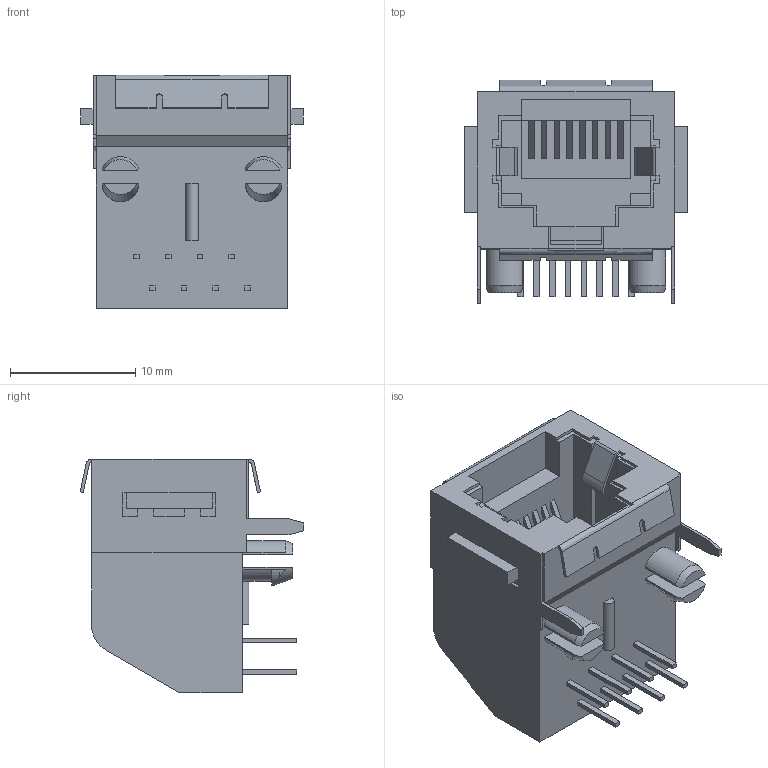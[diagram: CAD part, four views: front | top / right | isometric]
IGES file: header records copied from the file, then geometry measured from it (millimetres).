
Start section:  PTC IGES file: c-5555141-01-b-3d.igs
Global section: file name: c-5555141-01-b-3d.igs; native system: Pro/ENGINEER by Parametric Technology Corporation; preprocessor: 2005450; author: workeradm; organization: Unknown; date: 071205.142023; units: millimetre
Bounding box: 17.78 x 17.87 x 18.67 mm (x, y, z)
Surface area: 2415.8 mm2 (no closed solid volume)
Topology: 0 solids, 0 shells, 281 faces, 1552 edges, 1552 vertices
Faces by surface type: bspline 255, revolution 26
